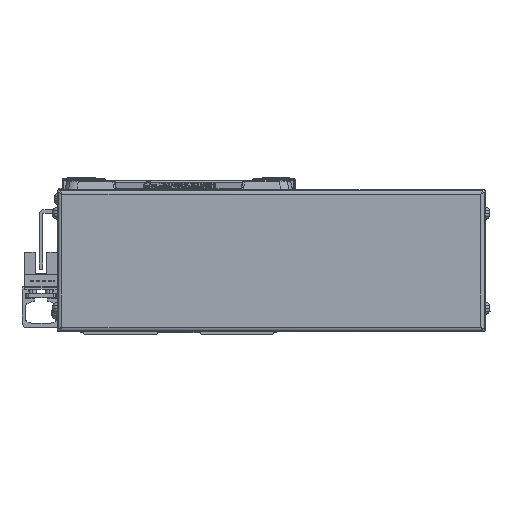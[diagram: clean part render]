
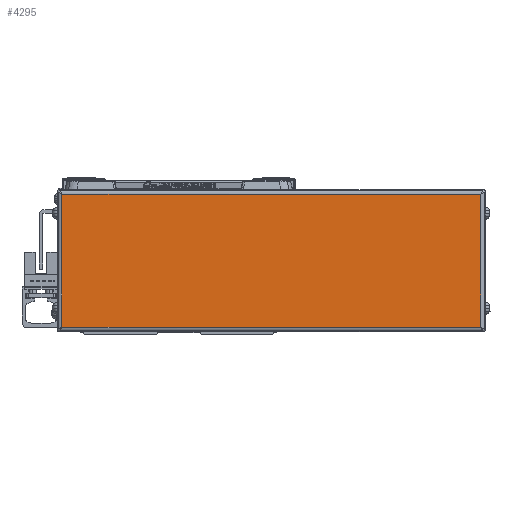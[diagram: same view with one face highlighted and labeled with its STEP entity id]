
A CAD part, left-side view. The second image highlights one B-rep face of the part: STEP entity #4295.
In plain terms, the highlighted planar face has unit normal (-1, 0, 0).
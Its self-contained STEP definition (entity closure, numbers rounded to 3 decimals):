
#4295=ADVANCED_FACE('',(#10028),#10029,.T.);
#10028=FACE_OUTER_BOUND('',#17741,.T.);
#10029=PLANE('',#17742);
#17741=EDGE_LOOP('',(#30160,#30161,#30162,#30163));
#17742=AXIS2_PLACEMENT_3D('',#30164,#30165,#30166);
#30160=ORIENTED_EDGE('',*,*,#48502,.F.);
#30161=ORIENTED_EDGE('',*,*,#48503,.F.);
#30162=ORIENTED_EDGE('',*,*,#48504,.F.);
#30163=ORIENTED_EDGE('',*,*,#46707,.F.);
#30164=CARTESIAN_POINT('',(-616.,-39.,0.));
#30165=DIRECTION('',(-1.0,0.,0.));
#30166=DIRECTION('',(0.,0.,1.0));
#46707=EDGE_CURVE('',#56820,#56822,#56823,.T.);
#48502=EDGE_CURVE('',#59044,#56820,#59671,.T.);
#48503=EDGE_CURVE('',#59672,#59044,#59673,.T.);
#48504=EDGE_CURVE('',#56822,#59672,#59674,.T.);
#56820=VERTEX_POINT('',#70410);
#56822=VERTEX_POINT('',#70412);
#56823=LINE('',#70413,#70414);
#59044=VERTEX_POINT('',#73508);
#59671=LINE('',#74365,#74366);
#59672=VERTEX_POINT('',#74367);
#59673=LINE('',#74368,#74369);
#59674=LINE('',#74370,#74371);
#70410=CARTESIAN_POINT('',(-616.,-127.2,28.));
#70412=CARTESIAN_POINT('',(-616.,-127.2,-28.));
#70413=CARTESIAN_POINT('',(-616.,-127.2,0.));
#70414=VECTOR('',#85056,10.0);
#73508=CARTESIAN_POINT('',(-616.,49.2,28.));
#74365=CARTESIAN_POINT('',(-616.,-39.,28.));
#74366=VECTOR('',#87435,10.0);
#74367=CARTESIAN_POINT('',(-616.0,49.2,-28.));
#74368=CARTESIAN_POINT('',(-616.0,49.2,0.));
#74369=VECTOR('',#87436,10.0);
#74370=CARTESIAN_POINT('',(-616.,-39.,-28.));
#74371=VECTOR('',#87437,10.0);
#85056=DIRECTION('',(0.,0.,-1.0));
#87435=DIRECTION('',(0.,-1.0,0.));
#87436=DIRECTION('',(0.,0.,1.0));
#87437=DIRECTION('',(0.,1.0,0.));
